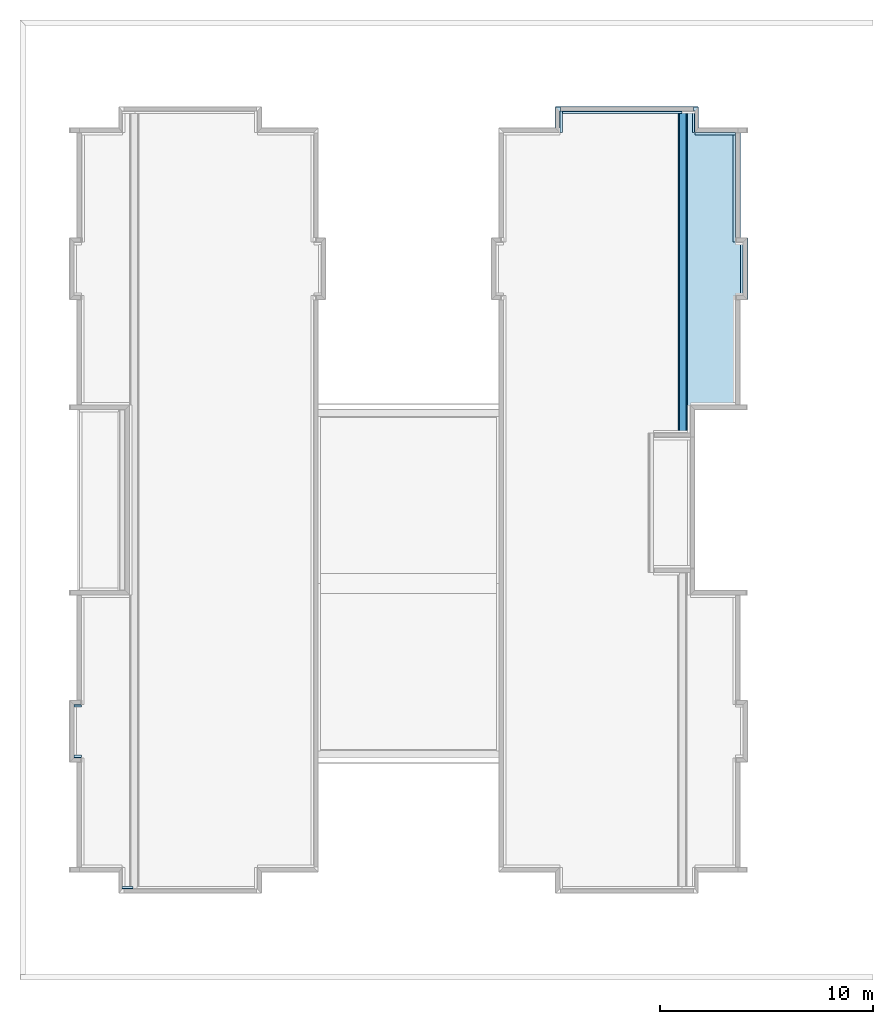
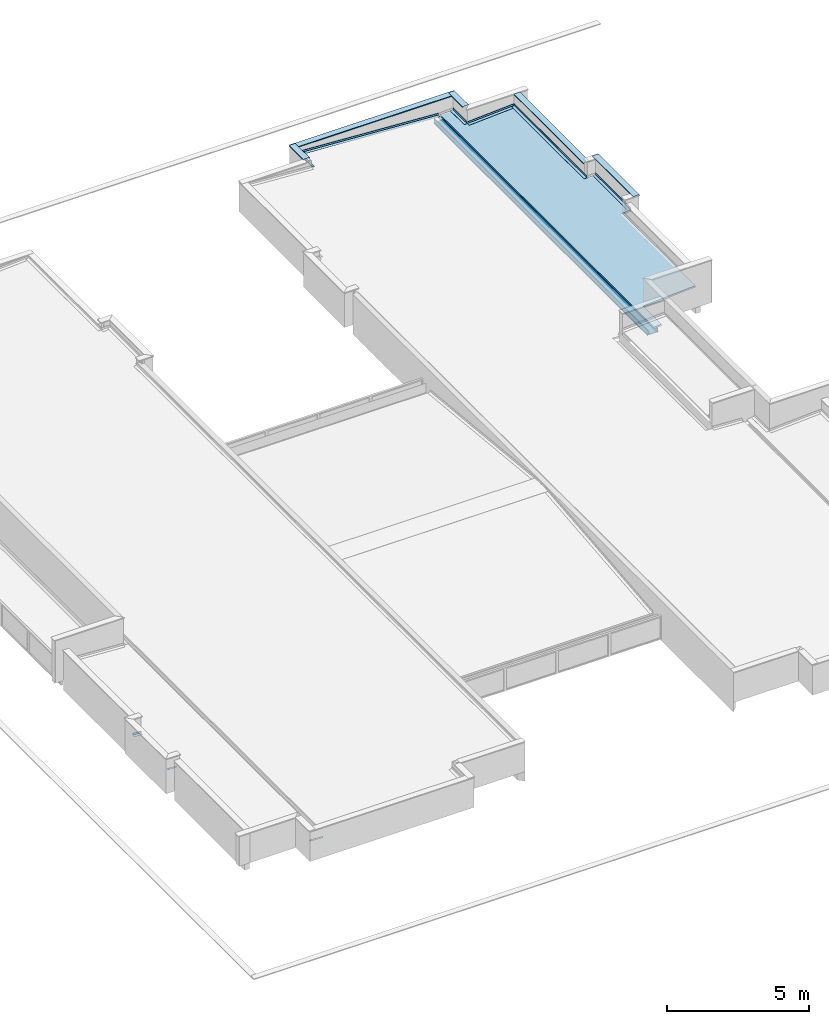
# One storey, part 14 of 25: 16 roofs.
"""IFC4 building model written with IfcOpenShell, lengths in metres."""

import ifcopenshell
import ifcopenshell.guid

model = None  # the IFC model being written
_history = None  # IfcOwnerHistory: only IFC2X3 demands one
_inside = {}  # id of a spatial element -> (the spatial element, [elements in it])
_under = {}  # id of a project, library or spatial element -> (it, [spatial elements below it])
_declared = {}  # id of a project -> (the project, [libraries it declares])
_typed = {}  # id of a type object -> (the type object, [elements of that type])
_made_of = {}  # id of a material, layer set ... -> (it, [elements and type objects made of it])


def new_model(schema):
    """Start an empty IFC model of exactly this schema.

    Asked for "IFC4X3", IfcOpenShell would pick the latest addendum, in which some entities
    have other attributes; the version numbers below select the first issue.
    IFC2X3 requires an IfcOwnerHistory on every rooted entity: one is made here for all.
    """
    global model, _history
    if schema == "IFC4X3":
        model = ifcopenshell.file(schema_version=(4, 3, 0, 0))
    else:
        model = ifcopenshell.file(schema=schema)
    _inside.clear()
    _under.clear()
    _declared.clear()
    _typed.clear()
    _made_of.clear()
    _history = None
    if model.schema == "IFC2X3":
        org = make("IfcOrganization", Name="unknown")
        user = make(
            "IfcPersonAndOrganization",
            ThePerson=make("IfcPerson", FamilyName="unknown"),
            TheOrganization=org,
        )
        app = make(
            "IfcApplication",
            ApplicationDeveloper=org,
            Version="unknown",
            ApplicationFullName="unknown",
            ApplicationIdentifier="unknown",
        )
        _history = make(
            "IfcOwnerHistory",
            OwningUser=user,
            OwningApplication=app,
            ChangeAction="ADDED",
            CreationDate=0,
        )
    return model


def make(cls, **values):
    """One entity of the class cls with the attributes given. An attribute that is None is left unset."""
    return model.create_entity(
        cls, **{name: value for name, value in values.items() if value is not None}
    )


def entity(cls, *values):
    """Any entity or typed value of the class cls, its attributes in the order of the schema. None: left unset."""
    e = model.create_entity(cls)
    for i, value in enumerate(values):
        if value is not None:
            e[i] = value
    return e


def rooted(cls, **values):
    """An entity with a GlobalId (a new one), such as an element, a storey or a relation."""
    return make(cls, GlobalId=ifcopenshell.guid.new(), OwnerHistory=_history, **values)


def si_unit(unit_type, name, prefix=None):
    """IfcSIUnit, for example si_unit("LENGTHUNIT", "METRE", prefix="MILLI")."""
    return make("IfcSIUnit", UnitType=unit_type, Prefix=prefix, Name=name)


def converted_unit(unit_type, name, factor, base, dimensions=None, offset=None):
    """IfcConversionBasedUnit, such as the inch: factor (a typed value) times the base unit."""
    return make(
        "IfcConversionBasedUnit"
        if offset is None
        else "IfcConversionBasedUnitWithOffset",
        ConversionOffset=offset,
        Dimensions=None
        if dimensions is None
        else entity("IfcDimensionalExponents", *dimensions),
        UnitType=unit_type,
        Name=name,
        ConversionFactor=make(
            "IfcMeasureWithUnit", ValueComponent=factor, UnitComponent=base
        ),
    )


def derived_unit(unit_type, elements):
    """IfcDerivedUnit: a product of units, each with its exponent."""
    return make(
        "IfcDerivedUnit",
        Elements=[
            make("IfcDerivedUnitElement", Unit=unit, Exponent=power)
            for unit, power in elements
        ],
        UnitType=unit_type,
    )


def assignment(units):
    """IfcUnitAssignment: the units of a project."""
    return None if units is None else make("IfcUnitAssignment", Units=units)


def point(xyz):
    """IfcCartesianPoint."""
    return None if xyz is None else make("IfcCartesianPoint", Coordinates=xyz)


def direction(xyz):
    """IfcDirection."""
    return None if xyz is None else make("IfcDirection", DirectionRatios=xyz)


def frame(location, z_axis=None, x_axis=None):
    """IfcAxis2Placement3D, a coordinate frame: its origin and axes. An axis left out is left unset."""
    return make(
        "IfcAxis2Placement3D",
        Location=point(location),
        Axis=direction(z_axis),
        RefDirection=direction(x_axis),
    )


def origin_with_axes():
    """The frame at (0, 0, 0) with the z axis (0, 0, 1) and the x axis (1, 0, 0) written out."""
    return frame((0.0, 0.0, 0.0), z_axis=(0.0, 0.0, 1.0), x_axis=(1.0, 0.0, 0.0))


def place(relative_to, where):
    """IfcLocalPlacement: puts the frame where relative to a parent placement (None: the world)."""
    return make(
        "IfcLocalPlacement", PlacementRelTo=relative_to, RelativePlacement=where
    )


def context(
    kind, dimensions, precision=None, world=None, true_north=None, identifier=None
):
    """IfcGeometricRepresentationContext, for example the 3D "Model" context."""
    return make(
        "IfcGeometricRepresentationContext",
        ContextIdentifier=identifier,
        ContextType=kind,
        CoordinateSpaceDimension=dimensions,
        Precision=precision,
        WorldCoordinateSystem=world,
        TrueNorth=true_north,
    )


def subcontext(parent, identifier, kind, view, scale=None):
    """IfcGeometricRepresentationSubContext, for example "Body" below "Model"."""
    return make(
        "IfcGeometricRepresentationSubContext",
        ContextIdentifier=identifier,
        ContextType=kind,
        ParentContext=parent,
        TargetScale=scale,
        TargetView=view,
    )


def project(units=None, contexts=None):
    """IfcProject with its units and contexts."""
    return rooted(
        "IfcProject",
        Name="project",
        RepresentationContexts=contexts,
        UnitsInContext=assignment(units),
    )


def spatial(cls, under=None, at=None, **own):
    """A site, building, storey or space (cls), placed at a placement, below another one or the project."""
    s = rooted(cls, ObjectPlacement=at, **own)
    if under is not None:
        _under.setdefault(under.id(), (under, []))[1].append(s)
    return s


def point_list(points):
    """IfcCartesianPointList2D or 3D."""
    cls = (
        "IfcCartesianPointList2D" if len(points[0]) == 2 else "IfcCartesianPointList3D"
    )
    return make(cls, CoordList=points)


def line(*indices):
    """IfcLineIndex: a straight run through numbered points of an indexed curve."""
    return model.create_entity("IfcLineIndex", indices)


def arc(*indices):
    """IfcArcIndex: an arc through three numbered points of an indexed curve."""
    return model.create_entity("IfcArcIndex", indices)


def indexed_curve(points, segments=None, self_intersect=None):
    """IfcIndexedPolyCurve: lines and arcs through numbered points (the first is 1)."""
    return make(
        "IfcIndexedPolyCurve",
        Points=point_list(points),
        Segments=segments,
        SelfIntersect=self_intersect,
    )


def outline(outer, holes=None, kind="AREA"):
    """IfcArbitraryClosedProfileDef: a profile drawn as a closed curve; with holes, ...WithVoids."""
    if holes is None:
        return make("IfcArbitraryClosedProfileDef", ProfileType=kind, OuterCurve=outer)
    return make(
        "IfcArbitraryProfileDefWithVoids",
        ProfileType=kind,
        OuterCurve=outer,
        InnerCurves=holes,
    )


def composite_profile(profiles, kind="AREA"):
    """IfcCompositeProfileDef: several profiles as one."""
    return make("IfcCompositeProfileDef", ProfileType=kind, Profiles=profiles)


def extrude(swept, where, along, depth):
    """IfcExtrudedAreaSolid: the profile swept, set in the frame where, extruded along a direction by depth."""
    return make(
        "IfcExtrudedAreaSolid",
        SweptArea=swept,
        Position=where,
        ExtrudedDirection=direction(along),
        Depth=depth,
    )


def clip(a, b, op="DIFFERENCE"):
    """IfcBooleanClippingResult: the solid a cut by the half space b."""
    return make(
        "IfcBooleanClippingResult", Operator=op, FirstOperand=a, SecondOperand=b
    )


def halfspace(plane, agree):
    """IfcHalfSpaceSolid: all space on one side of the plane z = 0 of the frame plane."""
    return make(
        "IfcHalfSpaceSolid",
        BaseSurface=make("IfcPlane", Position=plane),
        AgreementFlag=agree,
    )


def shape(context_of_items, identifier, shape_type, items):
    """IfcShapeRepresentation: the items that make up one representation, for example the "Body"."""
    return make(
        "IfcShapeRepresentation",
        ContextOfItems=context_of_items,
        RepresentationIdentifier=identifier,
        RepresentationType=shape_type,
        Items=items,
    )


def material(Name=None, Category=None):
    """IfcMaterial."""
    return make("IfcMaterial", Name=Name, Category=Category)


def material_profile(
    of_material, cross_section, Name=None, Category=None, Priority=None
):
    """IfcMaterialProfile: a cross section and its material."""
    return make(
        "IfcMaterialProfile",
        Name=Name,
        Material=of_material,
        Profile=cross_section,
        Priority=Priority,
        Category=Category,
    )


def profile_set(profiles, Name=None, composite=None):
    """IfcMaterialProfileSet."""
    return make(
        "IfcMaterialProfileSet",
        Name=Name,
        MaterialProfiles=profiles,
        CompositeProfile=composite,
    )


def made_of(thing, what):
    """Note that an element or type object is made of a material, layer set ...; save() writes the relation."""
    if what is not None:
        _made_of.setdefault(what.id(), (what, []))[1].append(thing)
    return thing


def type_object(cls, material=None, **own):
    """A type object (cls), such as IfcWallType, which elements share."""
    return made_of(rooted(cls, **own), material)


def element(
    cls,
    number,
    at=None,
    inside=None,
    cuts=None,
    type_object=None,
    material=None,
    context=None,
    identifier="Body",
    shape_type=None,
    held_by="IfcProductDefinitionShape",
    body=None,
    shapes=None,
    **own,
):
    """One element of the class cls, such as IfcWall. Its Tag is "e" and its number.

    at: its placement. inside: the storey or other place that contains it. cuts: it is an
    opening in that element (IfcRelVoidsElement). A single representation is given by context,
    identifier, shape_type and body (its items); several are given by shapes. held_by: the class
    of the entity that holds the representations. save() writes the other relations.
    """
    e = rooted(cls, Tag="e%d" % number, ObjectPlacement=at, **own)
    if body is not None:
        shapes = [shape(context, identifier, shape_type, body)]
    if shapes is not None:
        e.Representation = make(held_by, Representations=shapes)
    if inside is not None:
        _inside.setdefault(inside.id(), (inside, []))[1].append(e)
    if cuts is not None:
        rooted(
            "IfcRelVoidsElement", RelatingBuildingElement=cuts, RelatedOpeningElement=e
        )
    if type_object is not None:
        _typed.setdefault(type_object.id(), (type_object, []))[1].append(e)
    return made_of(e, material)


def aggregate(whole, parts):
    """IfcRelAggregates: a whole, such as a stair, and the parts it consists of."""
    return rooted("IfcRelAggregates", RelatingObject=whole, RelatedObjects=parts)


def save(model, path):
    """Write the relations noted so far, then the file.

    IfcRelAggregates (storeys below a building ...), IfcRelContainedInSpatialStructure (elements
    in a storey), IfcRelDefinesByType, IfcRelAssociatesMaterial and IfcRelDeclares: one each for
    every whole, place, type object, material and project.
    """
    for whole, parts in _under.values():
        aggregate(whole, parts)
    for where, things in _inside.values():
        rooted(
            "IfcRelContainedInSpatialStructure",
            RelatedElements=things,
            RelatingStructure=where,
        )
    for kind, things in _typed.values():
        rooted("IfcRelDefinesByType", RelatedObjects=things, RelatingType=kind)
    for what, things in _made_of.values():
        rooted("IfcRelAssociatesMaterial", RelatedObjects=things, RelatingMaterial=what)
    for by, libraries in _declared.values():
        rooted("IfcRelDeclares", RelatingContext=by, RelatedDefinitions=libraries)
    model.write(path)


model = new_model("IFC4")

# Units and contexts
model_context = context("Model", 3, precision=1e-05, world=origin_with_axes(), true_north=direction((0.0, 1.0)))
body_context = subcontext(model_context, "Body", "Model", "MODEL_VIEW")
ifc_project = project(units=[si_unit("LENGTHUNIT", "METRE"), si_unit("AREAUNIT", "SQUARE_METRE"), si_unit("VOLUMEUNIT", "CUBIC_METRE"), converted_unit("PLANEANGLEUNIT", "DEGREE", entity("IfcPlaneAngleMeasure", 0.0174532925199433), si_unit("PLANEANGLEUNIT", "RADIAN"), dimensions=[0, 0, 0, 0, 0, 0, 0]), converted_unit("TIMEUNIT", "Year", entity("IfcTimeMeasure", 31557600.0), si_unit("TIMEUNIT", "SECOND"), dimensions=[0, 0, 1, 0, 0, 0, 0]), si_unit("MASSUNIT", "GRAM", prefix="KILO"), si_unit("THERMODYNAMICTEMPERATUREUNIT", "DEGREE_CELSIUS"), si_unit("LUMINOUSINTENSITYUNIT", "LUMEN"), si_unit("ENERGYUNIT", "JOULE", prefix="MEGA"), derived_unit("THERMALCONDUCTANCEUNIT", [(si_unit("POWERUNIT", "WATT"), 1), (si_unit("LENGTHUNIT", "METRE"), -1), (si_unit("THERMODYNAMICTEMPERATUREUNIT", "KELVIN"), -1)]), derived_unit("SPECIFICHEATCAPACITYUNIT", [(si_unit("ENERGYUNIT", "JOULE"), 1), (si_unit("MASSUNIT", "GRAM", prefix="KILO"), -1), (si_unit("THERMODYNAMICTEMPERATUREUNIT", "KELVIN"), -1)]), derived_unit("MASSDENSITYUNIT", [(si_unit("MASSUNIT", "GRAM", prefix="KILO"), 1), (si_unit("VOLUMEUNIT", "CUBIC_METRE"), -1)])], contexts=[model_context])

# Site, building, storey
site_placement = place(None, origin_with_axes())
site = spatial("IfcSite", under=ifc_project, at=site_placement, Name="PADRÃO", CompositionType="ELEMENT")
building_placement = place(site_placement, origin_with_axes())
building = spatial("IfcBuilding", under=site, at=building_placement, Name="CRECHE PRÉ-ESCOLA TIPO 2", CompositionType="ELEMENT")
storey_placement = place(building_placement, frame((0.0, 0.0, 3.26), z_axis=(0.0, 0.0, 1.0), x_axis=(1.0, 0.0, 0.0)))
storey = spatial("IfcBuildingStorey", under=building, at=storey_placement, Name="COBERTURA", CompositionType="ELEMENT", Elevation=3.26)

# Roofs
ifc_material_1 = material(Name="TELHA METÁLICA TERMOACÚSTICA")
roof_type_1 = type_object("IfcRoofType", Name="TELHA METÁLICA TERMOACÚSTICA 70", PredefinedType="NOTDEFINED")
roof_1_placement = place(storey_placement, frame((-6.4400175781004, 39.7751358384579, 0.730885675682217), z_axis=(0.0, 0.0, 1.0), x_axis=(0.0, -1.0, 0.0)))
element("IfcRoof", 1, at=roof_1_placement, inside=storey, type_object=roof_type_1, material=ifc_material_1, Name="Cobert.-001", PredefinedType="NOTDEFINED", context=body_context, shape_type="SweptSolid", body=[
    extrude(outline(indexed_curve([(12.8249995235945, 0.004235), (7.67506697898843, 0.004235), (7.67506697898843, 0.354799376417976), (5.17506554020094, 0.354799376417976), (5.17506554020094, 0.004235), (0.024999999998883, 0.004235), (0.024999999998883, -1.90933695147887), (-0.975000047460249, -1.90933695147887), (-0.975000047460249, -2.44028208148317), (14.1249999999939, -2.44028208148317), (14.1249999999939, -2.12974501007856), (12.8249995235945, -2.12974501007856)], segments=[line(1, 2, 3, 4, 5, 6, 7, 8, 9, 10, 11, 12, 1)])), frame((0.0, 0.0, 0.0), z_axis=(0.0, -0.0603895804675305, 0.998174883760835), x_axis=(1.0, 0.0, 0.0)), (0.0, 0.0, 1.0), 0.07),
])
ifc_material_2 = material(Name="RUFO EM CHAPA DE AÇO GALVANIZADO")
ifc_material_profile_1 = material_profile(ifc_material_2, outline(indexed_curve([(-0.123242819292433, 0.0), (-0.123136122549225, -0.000994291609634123), (-0.01, 0.0111462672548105), (-0.01, 0.0811462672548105), (0.000794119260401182, 0.0919771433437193), (8.58116060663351e-05, 0.0926830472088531), (-0.011, 0.0815594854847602), (-0.011, 0.0120446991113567), (-0.123136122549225, 1.14495535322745e-05)], segments=[line(1, 2, 3, 4, 5, 6, 7, 8, 9, 1)])), Name="RUFO EM CHAPA DE AÇO GALVANIZADO")
ifc_profile_set_1 = profile_set([ifc_material_profile_1], Name="FNDE-Rufo")
roof_type_2 = type_object("IfcRoofType", Name="FNDE-Rufo 124 x 94", PredefinedType="NOTDEFINED")
roof_2_placement = place(storey_placement, frame((-6.0900072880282, 32.1011857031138, 0.820777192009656), z_axis=(0.0, 0.0, 1.0), x_axis=(1.0, 0.0, 0.0)))
element("IfcRoof", 2, at=roof_2_placement, inside=storey, type_object=roof_type_2, material=ifc_profile_set_1, Name="V01", PredefinedType="NOTDEFINED", context=body_context, shape_type="SweptSolid", body=[
    extrude(outline(indexed_curve([(-0.123242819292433, 0.0), (-0.123136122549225, -0.000994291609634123), (-0.01, 0.0111462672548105), (-0.01, 0.0811462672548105), (0.000794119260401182, 0.0919771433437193), (8.58116060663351e-05, 0.0926830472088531), (-0.011, 0.0815594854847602), (-0.011, 0.0120446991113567), (-0.123136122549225, 1.14495535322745e-05)], segments=[line(1, 2, 3, 4, 5, 6, 7, 8, 9, 1)])), frame((0.0, 2.50000143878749, 0.0), z_axis=(0.0, -1.0, 0.0), x_axis=(1.0, 0.0, 0.0)), (0.0, 0.0, 1.0), 2.50000143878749),
])
roof_3_placement = place(storey_placement, frame((-6.44010225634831, 34.600090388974, 0.800958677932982), z_axis=(0.0, 0.0, 1.0), x_axis=(1.0, 0.0, 0.0)))
element("IfcRoof", 3, at=roof_3_placement, inside=storey, type_object=roof_type_2, material=ifc_profile_set_1, Name="V01", PredefinedType="NOTDEFINED", context=body_context, shape_type="SweptSolid", body=[
    extrude(outline(indexed_curve([(-0.123242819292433, 0.0), (-0.123136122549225, -0.000994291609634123), (-0.01, 0.0111462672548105), (-0.01, 0.0811462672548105), (0.000794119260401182, 0.0919771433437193), (8.58116060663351e-05, 0.0926830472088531), (-0.011, 0.0815594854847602), (-0.011, 0.0120446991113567), (-0.123136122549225, 1.14495535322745e-05)], segments=[line(1, 2, 3, 4, 5, 6, 7, 8, 9, 1)])), frame((0.0, 5.15006554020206, 0.0), z_axis=(0.0, -1.0, 0.0), x_axis=(1.0, 0.0, 0.0)), (0.0, 0.0, 1.0), 5.15006554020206),
])
roof_4_placement = place(storey_placement, frame((-8.95813471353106, 40.7501559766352, 0.661243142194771), z_axis=(0.0, 0.0, 1.0), x_axis=(-1.30708102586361e-06, 0.999999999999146, 0.0)))
element("IfcRoof", 4, at=roof_4_placement, inside=storey, type_object=roof_type_2, material=ifc_profile_set_1, Name="V01", PredefinedType="NOTDEFINED", context=body_context, shape_type="Clipping", body=[
    clip(clip(extrude(outline(indexed_curve([(-0.123242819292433, 0.0), (-0.123136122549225, -0.000994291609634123), (-0.01, 0.0111462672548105), (-0.01, 0.0811462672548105), (0.000794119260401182, 0.0919771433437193), (8.58116060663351e-05, 0.0926830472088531), (-0.011, 0.0815594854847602), (-0.011, 0.0120446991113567), (-0.123136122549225, 1.14495535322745e-05)], segments=[line(1, 2, 3, 4, 5, 6, 7, 8, 9, 1)])), frame((0.0, 5.74269318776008, 0.353751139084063), z_axis=(0.0, -0.998108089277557, -0.0614836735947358), x_axis=(1.0, 0.0, 0.0)), (0.0, 0.0, 1.0), 5.76438402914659), halfspace(frame((0.0, 0.0, 0.0), z_axis=(0.0, 1.0, 0.0), x_axis=(0.0, 0.0, 1.0)), True)), halfspace(frame((0.0, 5.7319080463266, 0.0), z_axis=(0.0, -1.0, 0.0), x_axis=(0.0, 0.0, -1.0)), True)),
])
roof_5_placement = place(storey_placement, frame((-14.6900427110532, 40.750148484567, 1.01432991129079), z_axis=(0.0, 0.0, 1.0), x_axis=(-0.999999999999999, -4.7876078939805e-08, 0.0)))
element("IfcRoof", 5, at=roof_5_placement, inside=storey, type_object=roof_type_2, material=ifc_profile_set_1, Name="V01", PredefinedType="NOTDEFINED", context=body_context, shape_type="SweptSolid", body=[
    extrude(outline(indexed_curve([(-0.123242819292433, 0.0), (-0.123136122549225, -0.000994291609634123), (-0.01, 0.0111462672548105), (-0.01, 0.0811462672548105), (0.000794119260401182, 0.0919771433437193), (8.58116060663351e-05, 0.0926830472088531), (-0.011, 0.0815594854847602), (-0.011, 0.0120446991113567), (-0.123136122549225, 1.14495535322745e-05)], segments=[line(1, 2, 3, 4, 5, 6, 7, 8, 9, 1)])), frame((0.0, 1.00005816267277, 0.0), z_axis=(0.0, -1.0, 0.0), x_axis=(1.0, 0.0, 0.0)), (0.0, 0.0, 1.0), 1.00005816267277),
])
roof_6_placement = place(storey_placement, frame((-6.44010225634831, 39.7501559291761, 0.800958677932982), z_axis=(0.0, 0.0, 1.0), x_axis=(0.0, 1.0, 0.0)))
element("IfcRoof", 6, at=roof_6_placement, inside=storey, type_object=roof_type_2, material=ifc_profile_set_1, Name="V01", PredefinedType="NOTDEFINED", context=body_context, shape_type="Clipping", body=[
    clip(clip(extrude(outline(indexed_curve([(-0.123242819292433, 0.0), (-0.123136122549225, -0.000994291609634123), (-0.01, 0.0111462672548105), (-0.01, 0.0811462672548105), (0.000794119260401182, 0.0919771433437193), (8.58116060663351e-05, 0.0926830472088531), (-0.011, 0.0815594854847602), (-0.011, 0.0120446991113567), (-0.123136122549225, 1.14495535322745e-05)], segments=[line(1, 2, 3, 4, 5, 6, 7, 8, 9, 1)])), frame((0.0, 1.92097128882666, -0.115258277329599), z_axis=(0.0, -0.998204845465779, 0.0598922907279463), x_axis=(1.0, 0.0, 0.0)), (0.0, 0.0, 1.0), 1.93495081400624), halfspace(frame((0.0, 0.0, 0.0), z_axis=(0.0, 1.0, 0.0), x_axis=(0.0, 0.0, 1.0)), True)), halfspace(frame((0.0, 1.91046529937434, 0.0), z_axis=(0.0, -1.0, 0.0), x_axis=(0.0, 0.0, -1.0)), True)),
])
roof_7_placement = place(storey_placement, frame((-8.35056755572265, 39.7501559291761, 0.685453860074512), z_axis=(0.0, 0.0, 1.0), x_axis=(1.0, 0.0, 0.0)))
element("IfcRoof", 7, at=roof_7_placement, inside=storey, type_object=roof_type_2, material=ifc_profile_set_1, Name="V01", PredefinedType="NOTDEFINED", context=body_context, shape_type="SweptSolid", body=[
    extrude(outline(indexed_curve([(-0.123242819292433, 0.0), (-0.123136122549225, -0.000994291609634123), (-0.01, 0.0111462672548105), (-0.01, 0.0811462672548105), (0.000794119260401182, 0.0919771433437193), (8.58116060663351e-05, 0.0926830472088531), (-0.011, 0.0815594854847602), (-0.011, 0.0120446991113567), (-0.123136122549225, 1.14495535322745e-05)], segments=[line(1, 2, 3, 4, 5, 6, 7, 8, 9, 1)])), frame((0.0, 1.00000004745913, 0.0), z_axis=(0.0, -1.0, 0.0), x_axis=(1.0, 0.0, 0.0)), (0.0, 0.0, 1.0), 1.00000004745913),
])
roof_8_placement = place(storey_placement, frame((-34.7265283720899, 4.25015275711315, 0.656572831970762), z_axis=(0.0, 0.0, 1.0), x_axis=(-4.14629476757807e-05, 0.999999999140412, 0.0)))
element("IfcRoof", 8, at=roof_8_placement, inside=storey, type_object=roof_type_2, material=ifc_profile_set_1, Name="V01", PredefinedType="NOTDEFINED", context=body_context, shape_type="Clipping", body=[
    clip(clip(extrude(outline(indexed_curve([(-0.123242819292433, 0.0), (-0.123136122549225, -0.000994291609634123), (-0.01, 0.0111462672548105), (-0.01, 0.0811462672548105), (0.000794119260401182, 0.0919771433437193), (8.58116060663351e-05, 0.0926830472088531), (-0.011, 0.0815594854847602), (-0.011, 0.0120446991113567), (-0.123136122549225, 1.14495535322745e-05)], segments=[line(1, 2, 3, 4, 5, 6, 7, 8, 9, 1)])), frame((0.0, 0.513028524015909, 0.0277129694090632), z_axis=(0.0, 0.998544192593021, 0.0539397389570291), x_axis=(-1.0, 0.0, 0.0)), (0.0, 0.0, -1.0), 0.523252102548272), halfspace(frame((0.0, 0.0, 0.0), z_axis=(0.0, 1.0, 0.0), x_axis=(0.0, 0.0, 1.0)), True)), halfspace(frame((0.0, 0.503566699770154, 0.0), z_axis=(0.0, -1.0, 0.0), x_axis=(0.0, 0.0, -1.0)), True)),
])
roof_9_placement = place(storey_placement, frame((-37.4909428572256, 12.9000010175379, 0.820899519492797), z_axis=(0.0, 0.0, 1.0), x_axis=(0.0, -1.0, 0.0)))
element("IfcRoof", 9, at=roof_9_placement, inside=storey, type_object=roof_type_2, material=ifc_profile_set_1, Name="V01", PredefinedType="NOTDEFINED", context=body_context, shape_type="Clipping", body=[
    clip(clip(extrude(outline(indexed_curve([(-0.123242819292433, 0.0), (-0.123136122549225, -0.000994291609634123), (-0.01, 0.0111462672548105), (-0.01, 0.0811462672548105), (0.000794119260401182, 0.0919771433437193), (8.58116060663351e-05, 0.0926830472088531), (-0.011, 0.0815594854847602), (-0.011, 0.0120446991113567), (-0.123136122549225, 1.14495535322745e-05)], segments=[line(1, 2, 3, 4, 5, 6, 7, 8, 9, 1)])), frame((0.0, 0.360760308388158, -0.0216405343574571), z_axis=(0.0, 0.998205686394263, -0.0598782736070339), x_axis=(-1.0, 0.0, 0.0)), (0.0, 0.0, -1.0), 0.371931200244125), halfspace(frame((0.0, 0.0, 0.0), z_axis=(0.0, 1.0, 0.0), x_axis=(0.0, 0.0, 1.0)), True)), halfspace(frame((0.0, 0.350256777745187, 0.0), z_axis=(0.0, -1.0, 0.0), x_axis=(0.0, 0.0, -1.0)), True)),
])
roof_10_placement = place(storey_placement, frame((-37.1406285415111, 10.399988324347, 0.799880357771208), z_axis=(0.0, 0.0, 1.0), x_axis=(7.23972153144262e-05, 0.999999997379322, 0.0)))
element("IfcRoof", 10, at=roof_10_placement, inside=storey, type_object=roof_type_2, material=ifc_profile_set_1, Name="V01", PredefinedType="NOTDEFINED", context=body_context, shape_type="Clipping", body=[
    clip(clip(extrude(outline(indexed_curve([(-0.123242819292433, 0.0), (-0.123136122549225, -0.000994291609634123), (-0.01, 0.0111462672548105), (-0.01, 0.0811462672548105), (0.000794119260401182, 0.0919771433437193), (8.58116060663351e-05, 0.0926830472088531), (-0.011, 0.0815594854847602), (-0.011, 0.0120446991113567), (-0.123136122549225, 1.14495535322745e-05)], segments=[line(1, 2, 3, 4, 5, 6, 7, 8, 9, 1)])), frame((0.0, 0.360936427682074, 0.0216491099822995), z_axis=(0.0, 0.99820601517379, 0.0598727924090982), x_axis=(-1.0, 0.0, 0.0)), (0.0, 0.0, -1.0), 0.372106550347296), halfspace(frame((0.0, 0.0, 0.0), z_axis=(0.0, 1.0, 0.0), x_axis=(0.0, 0.0, 1.0)), True)), halfspace(frame((0.0, 0.350433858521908, 0.0), z_axis=(0.0, -1.0, 0.0), x_axis=(0.0, 0.0, -1.0)), True)),
])
ifc_material_3 = material(Name="PINGADEIRA EM CHAPA DE AÇO GALVANIZADO")
ifc_material_profile_2 = material_profile(ifc_material_3, outline(indexed_curve([(0.00496259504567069, -0.0184313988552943), (0.0250000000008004, -0.03), (0.0250000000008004, 0.01), (-0.225020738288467, 0.01), (-0.22503740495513, -0.03), (-0.205, -0.0184313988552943), (-0.2055, -0.0175653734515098), (-0.224036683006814, -0.0282675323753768), (-0.224021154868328, 0.009), (0.0240000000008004, 0.009), (0.0240000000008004, -0.0282679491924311), (0.00546259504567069, -0.0175653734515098)], segments=[line(1, 2, 3, 4, 5, 6, 7, 8, 9, 10, 11, 12, 1)])), Name="PINGADEIRA EM CHAPA DE AÇO GALVANIZADO")
ifc_profile_set_2 = profile_set([ifc_material_profile_2], Name="FNDE-Pingadeira em chapa de aço galvanizado")
roof_type_3 = type_object("IfcRoofType", Name="FNDE-Pingadeira em chapa de aço galvanizado 250 x 40", PredefinedType="NOTDEFINED")
roof_11_placement = place(storey_placement, frame((-8.20056435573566, 39.950155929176, 1.31), z_axis=(0.0, 0.0, 1.0), x_axis=(1.0, 0.0, 0.0)))
element("IfcRoof", 11, at=roof_11_placement, inside=storey, type_object=roof_type_3, material=ifc_profile_set_2, Name="V01", PredefinedType="NOTDEFINED", context=body_context, shape_type="SweptSolid", body=[
    extrude(outline(indexed_curve([(0.00496259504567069, -0.0184313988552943), (0.0250000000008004, -0.03), (0.0250000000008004, 0.01), (-0.225020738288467, 0.01), (-0.22503740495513, -0.03), (-0.205, -0.0184313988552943), (-0.2055, -0.0175653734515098), (-0.224036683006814, -0.0282675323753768), (-0.224021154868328, 0.009), (0.0240000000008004, 0.009), (0.0240000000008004, -0.0282679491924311), (0.00546259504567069, -0.0175653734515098)], segments=[line(1, 2, 3, 4, 5, 6, 7, 8, 9, 10, 11, 12, 1)])), frame((0.0, 1.00000010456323, 0.0), z_axis=(0.0, -1.0, 0.0), x_axis=(1.0, 0.0, 0.0)), (0.0, 0.0, 1.0), 1.00000010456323),
])
roof_12_placement = place(storey_placement, frame((-8.20056435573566, 40.9501560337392, 1.31), z_axis=(0.0, 0.0, 1.0), x_axis=(-1.16182311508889e-06, 0.999999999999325, 0.0)))
element("IfcRoof", 12, at=roof_12_placement, inside=storey, type_object=roof_type_3, material=ifc_profile_set_2, Name="V01", PredefinedType="NOTDEFINED", context=body_context, shape_type="SweptSolid", body=[
    extrude(outline(indexed_curve([(0.00496259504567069, -0.0184313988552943), (0.0250000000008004, -0.03), (0.0250000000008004, 0.01), (-0.225020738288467, 0.01), (-0.22503740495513, -0.03), (-0.205, -0.0184313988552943), (-0.2055, -0.0175653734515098), (-0.224036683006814, -0.0282675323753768), (-0.224021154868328, 0.009), (0.0240000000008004, 0.009), (0.0240000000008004, -0.0282679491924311), (0.00546259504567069, -0.0175653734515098)], segments=[line(1, 2, 3, 4, 5, 6, 7, 8, 9, 10, 11, 12, 1)])), frame((0.0, 6.6899751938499, 0.0), z_axis=(0.0, -1.0, 0.0), x_axis=(1.0, 0.0, 0.0)), (0.0, 0.0, 1.0), 6.6899751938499),
])
roof_13_placement = place(storey_placement, frame((-14.890539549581, 40.9501482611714, 1.31), z_axis=(0.0, 0.0, 1.0), x_axis=(-0.999999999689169, 2.49331613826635e-05, 0.0)))
element("IfcRoof", 13, at=roof_13_placement, inside=storey, type_object=roof_type_3, material=ifc_profile_set_2, Name="V01", PredefinedType="NOTDEFINED", context=body_context, shape_type="SweptSolid", body=[
    extrude(outline(indexed_curve([(0.00496259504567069, -0.0184313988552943), (0.0250000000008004, -0.03), (0.0250000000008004, 0.01), (-0.225020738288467, 0.01), (-0.22503740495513, -0.03), (-0.205, -0.0184313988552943), (-0.2055, -0.0175653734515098), (-0.224036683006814, -0.0282675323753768), (-0.224021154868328, 0.009), (0.0240000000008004, 0.009), (0.0240000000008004, -0.0282679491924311), (0.00546259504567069, -0.0175653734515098)], segments=[line(1, 2, 3, 4, 5, 6, 7, 8, 9, 10, 11, 12, 1)])), frame((0.0, 1.00005793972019, 0.0), z_axis=(0.0, -1.0, 0.0), x_axis=(1.0, 0.0, 0.0)), (0.0, 0.0, 1.0), 1.00005793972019),
])
roof_14_placement = place(storey_placement, frame((-6.24081070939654, 39.7251310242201, 1.31), z_axis=(0.0, 0.0, 1.0), x_axis=(-1.0, 0.0, 0.0)))
element("IfcRoof", 14, at=roof_14_placement, inside=storey, type_object=roof_type_3, material=ifc_profile_set_2, Name="V01", PredefinedType="NOTDEFINED", context=body_context, shape_type="SweptSolid", body=[
    extrude(outline(indexed_curve([(0.00496259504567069, -0.0184313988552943), (0.0250000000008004, -0.03), (0.0250000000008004, 0.01), (-0.225020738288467, 0.01), (-0.22503740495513, -0.03), (-0.205, -0.0184313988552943), (-0.2055, -0.0175653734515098), (-0.224036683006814, -0.0282675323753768), (-0.224021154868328, 0.009), (0.0240000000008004, 0.009), (0.0240000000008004, -0.0282679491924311), (0.00546259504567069, -0.0175653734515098)], segments=[line(1, 2, 3, 4, 5, 6, 7, 8, 9, 10, 11, 12, 1)])), frame((0.0, 4.92556918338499, 0.0), z_axis=(0.0, 1.0, 0.0), x_axis=(-1.0, 0.0, 0.0)), (0.0, 0.0, -1.0), 4.92556918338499),
])
roof_15_placement = place(storey_placement, frame((-5.89086795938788, 34.7995404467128, 1.51), z_axis=(0.0, 0.0, 1.0), x_axis=(-0.99999999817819, 6.03624105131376e-05, 0.0)))
element("IfcRoof", 15, at=roof_15_placement, inside=storey, type_object=roof_type_3, material=ifc_profile_set_2, Name="V01", PredefinedType="NOTDEFINED", context=body_context, shape_type="SweptSolid", body=[
    extrude(outline(indexed_curve([(0.00496259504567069, -0.0184313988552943), (0.0250000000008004, -0.03), (0.0250000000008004, 0.01), (-0.225020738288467, 0.01), (-0.22503740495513, -0.03), (-0.205, -0.0184313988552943), (-0.2055, -0.0175653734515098), (-0.224036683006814, -0.0282675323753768), (-0.224021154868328, 0.009), (0.0240000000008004, 0.009), (0.0240000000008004, -0.0282679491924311), (0.00546259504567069, -0.0175653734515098)], segments=[line(1, 2, 3, 4, 5, 6, 7, 8, 9, 10, 11, 12, 1)])), frame((0.0, 2.90000052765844, 0.0), z_axis=(0.0, 1.0, 0.0), x_axis=(-1.0, 0.0, 0.0)), (0.0, 0.0, -1.0), 2.90000052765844),
])
ifc_material_4 = material(Name="CALHA EM CHAPA DE AÇO GALVANIZADO")
ifc_material_profile_3 = material_profile(ifc_material_4, outline(indexed_curve([(0.201344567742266, -0.0546026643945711), (0.211344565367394, -0.0546026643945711), (0.211344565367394, -0.0254650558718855), (0.201344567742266, -0.0254649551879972)], segments=[line(1, 2, 3, 4, 1)])), Name="CALHA EM CHAPA DE AÇO GALVANIZADO 1")
ifc_material_profile_4 = material_profile(ifc_material_4, outline(indexed_curve([(0.211344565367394, 0.170194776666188), (0.201344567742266, 0.170194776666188), (0.201344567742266, -0.000467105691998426), (0.211344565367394, -0.000467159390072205)], segments=[line(1, 2, 3, 4, 1)])), Name="CALHA EM CHAPA DE AÇO GALVANIZADO 1")
ifc_material_profile_5 = material_profile(ifc_material_4, outline(indexed_curve([(-0.210177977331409, -0.0642311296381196), (-0.200177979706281, -0.0642311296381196), (-0.200177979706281, -0.0254630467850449), (-0.210177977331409, -0.0254630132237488)], segments=[line(1, 2, 3, 4, 1)])), Name="CALHA EM CHAPA DE AÇO GALVANIZADO 2")
ifc_material_profile_6 = material_profile(ifc_material_4, outline(indexed_curve([(-0.200177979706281, 0.160718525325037), (-0.210177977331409, 0.160718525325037), (-0.210177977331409, -0.00046508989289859), (-0.200177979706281, -0.000465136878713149)], segments=[line(1, 2, 3, 4, 1)])), Name="CALHA EM CHAPA DE AÇO GALVANIZADO 2")
ifc_material_profile_7 = material_profile(ifc_material_4, outline(indexed_curve([(-0.189999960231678, 0.146532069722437), (-0.189999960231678, -0.000465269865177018), (-0.187999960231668, -0.000465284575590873), (-0.187999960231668, 0.146532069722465), (-0.187707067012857, 0.147239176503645), (-0.186999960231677, 0.147532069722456), (-0.177673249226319, 0.147532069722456), (-0.177032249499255, 0.147299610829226), (-0.176689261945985, 0.146710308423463), (-0.152008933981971, -0.000465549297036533), (-0.15, -0.000465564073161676), (-0.174704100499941, 0.146960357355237), (-0.175709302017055, 0.148799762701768), (-0.177673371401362, 0.149532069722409), (-0.186999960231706, 0.149532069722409), (-0.189121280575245, 0.148653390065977)], segments=[line(1, 2, 3, 4), arc(4, 5, 6), line(6, 7), arc(7, 8, 9), line(9, 10, 11, 12), arc(12, 13, 14), line(14, 15), arc(15, 16, 1)])), Name="CALHA EM CHAPA DE AÇO GALVANIZADO 3")
ifc_material_profile_8 = material_profile(ifc_material_4, outline(indexed_curve([(-0.225177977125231, -0.000465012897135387), (-0.225177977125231, -0.0254629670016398), (-0.210177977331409, -0.0254630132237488), (-0.200177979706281, -0.0254630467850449), (-0.0475010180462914, -0.0254635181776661), (0.0475010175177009, -0.0254635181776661), (0.201344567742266, -0.0254649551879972), (0.211344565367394, -0.0254650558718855), (0.225273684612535, -0.0254651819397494), (0.225273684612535, -0.000467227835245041), (0.211344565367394, -0.000467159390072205), (0.201344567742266, -0.000467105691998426), (0.189999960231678, -0.000465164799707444), (0.187999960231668, -0.000465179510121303), (0.152008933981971, -0.000465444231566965), (0.15, -0.000465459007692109), (-0.15, -0.000465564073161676), (-0.152008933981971, -0.000465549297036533), (-0.187999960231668, -0.000465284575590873), (-0.189999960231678, -0.000465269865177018), (-0.200177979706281, -0.000465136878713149), (-0.210177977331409, -0.00046508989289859)], segments=[line(1, 2, 3, 4, 5, 6, 7, 8, 9, 10, 11, 12, 13, 14, 15, 16, 17, 18, 19, 20, 21, 22, 1)])), Name="CALHA EM CHAPA DE AÇO GALVANIZADO 4")
ifc_material_profile_9 = material_profile(ifc_material_4, outline(indexed_curve([(0.186999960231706, 0.149532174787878), (0.177673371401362, 0.149532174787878), (0.175709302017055, 0.148799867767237), (0.174704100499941, 0.146960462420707), (0.15, -0.000465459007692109), (0.152008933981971, -0.000465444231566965), (0.176689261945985, 0.146710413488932), (0.177032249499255, 0.147299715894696), (0.177673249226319, 0.147532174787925), (0.186999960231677, 0.147532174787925), (0.187707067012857, 0.147239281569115), (0.187999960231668, 0.146532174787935), (0.187999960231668, -0.000465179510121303), (0.189999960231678, -0.000465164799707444), (0.189999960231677, 0.146532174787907), (0.189121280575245, 0.148653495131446)], segments=[line(1, 2), arc(2, 3, 4), line(4, 5, 6, 7), arc(7, 8, 9), line(9, 10), arc(10, 11, 12), line(12, 13, 14, 15), arc(15, 16, 1)])), Name="CALHA EM CHAPA DE AÇO GALVANIZADO 5")
ifc_profile_set_3 = profile_set([ifc_material_profile_3, ifc_material_profile_4, ifc_material_profile_5, ifc_material_profile_6, ifc_material_profile_7, ifc_material_profile_8, ifc_material_profile_9], Name="FNDE-Calha", composite=composite_profile([outline(indexed_curve([(0.201344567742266, -0.0546026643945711), (0.211344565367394, -0.0546026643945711), (0.211344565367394, -0.0254650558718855), (0.201344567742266, -0.0254649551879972)], segments=[line(1, 2, 3, 4, 1)])), outline(indexed_curve([(0.211344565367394, 0.170194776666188), (0.201344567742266, 0.170194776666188), (0.201344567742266, -0.000467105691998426), (0.211344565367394, -0.000467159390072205)], segments=[line(1, 2, 3, 4, 1)])), outline(indexed_curve([(-0.210177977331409, -0.0642311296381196), (-0.200177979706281, -0.0642311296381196), (-0.200177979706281, -0.0254630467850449), (-0.210177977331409, -0.0254630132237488)], segments=[line(1, 2, 3, 4, 1)])), outline(indexed_curve([(-0.200177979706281, 0.160718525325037), (-0.210177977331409, 0.160718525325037), (-0.210177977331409, -0.00046508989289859), (-0.200177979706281, -0.000465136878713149)], segments=[line(1, 2, 3, 4, 1)])), outline(indexed_curve([(-0.189999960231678, 0.146532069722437), (-0.189999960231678, -0.000465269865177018), (-0.187999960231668, -0.000465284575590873), (-0.187999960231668, 0.146532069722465), (-0.187707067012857, 0.147239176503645), (-0.186999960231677, 0.147532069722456), (-0.177673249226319, 0.147532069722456), (-0.177032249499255, 0.147299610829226), (-0.176689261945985, 0.146710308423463), (-0.152008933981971, -0.000465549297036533), (-0.15, -0.000465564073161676), (-0.174704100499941, 0.146960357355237), (-0.175709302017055, 0.148799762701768), (-0.177673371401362, 0.149532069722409), (-0.186999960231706, 0.149532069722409), (-0.189121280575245, 0.148653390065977)], segments=[line(1, 2, 3, 4), arc(4, 5, 6), line(6, 7), arc(7, 8, 9), line(9, 10, 11, 12), arc(12, 13, 14), line(14, 15), arc(15, 16, 1)])), outline(indexed_curve([(-0.225177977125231, -0.000465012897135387), (-0.225177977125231, -0.0254629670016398), (-0.210177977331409, -0.0254630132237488), (-0.200177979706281, -0.0254630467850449), (-0.0475010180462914, -0.0254635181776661), (0.0475010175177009, -0.0254635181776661), (0.201344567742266, -0.0254649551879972), (0.211344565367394, -0.0254650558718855), (0.225273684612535, -0.0254651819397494), (0.225273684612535, -0.000467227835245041), (0.211344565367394, -0.000467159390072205), (0.201344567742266, -0.000467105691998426), (0.189999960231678, -0.000465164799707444), (0.187999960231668, -0.000465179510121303), (0.152008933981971, -0.000465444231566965), (0.15, -0.000465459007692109), (-0.15, -0.000465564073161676), (-0.152008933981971, -0.000465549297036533), (-0.187999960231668, -0.000465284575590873), (-0.189999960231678, -0.000465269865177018), (-0.200177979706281, -0.000465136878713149), (-0.210177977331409, -0.00046508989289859)], segments=[line(1, 2, 3, 4, 5, 6, 7, 8, 9, 10, 11, 12, 13, 14, 15, 16, 17, 18, 19, 20, 21, 22, 1)])), outline(indexed_curve([(0.186999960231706, 0.149532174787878), (0.177673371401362, 0.149532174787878), (0.175709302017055, 0.148799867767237), (0.174704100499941, 0.146960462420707), (0.15, -0.000465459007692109), (0.152008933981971, -0.000465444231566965), (0.176689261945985, 0.146710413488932), (0.177032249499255, 0.147299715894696), (0.177673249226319, 0.147532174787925), (0.186999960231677, 0.147532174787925), (0.187707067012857, 0.147239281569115), (0.187999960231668, 0.146532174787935), (0.187999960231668, -0.000465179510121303), (0.189999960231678, -0.000465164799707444), (0.189999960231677, 0.146532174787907), (0.189121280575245, 0.148653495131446)], segments=[line(1, 2), arc(2, 3, 4), line(4, 5, 6, 7), arc(7, 8, 9), line(9, 10), arc(10, 11, 12), line(12, 13, 14, 15), arc(15, 16, 1)]))]))
roof_type_4 = type_object("IfcRoofType", Name="FNDE-Calha 450 x 234", PredefinedType="NOTDEFINED")
roof_16_placement = place(storey_placement, frame((-8.92392173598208, 25.6490392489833, 0.41521913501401), z_axis=(0.0, 0.0, 1.0), x_axis=(1.0, 0.0, 0.0)))
element("IfcRoof", 16, at=roof_16_placement, inside=storey, type_object=roof_type_4, material=ifc_profile_set_3, Name="V01", PredefinedType="NOTDEFINED", context=body_context, shape_type="SweptSolid", body=[
    extrude(composite_profile([outline(indexed_curve([(0.201344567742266, -0.0546026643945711), (0.211344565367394, -0.0546026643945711), (0.211344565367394, -0.0254650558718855), (0.201344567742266, -0.0254649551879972)], segments=[line(1, 2, 3, 4, 1)])), outline(indexed_curve([(0.211344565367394, 0.170194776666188), (0.201344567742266, 0.170194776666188), (0.201344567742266, -0.000467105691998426), (0.211344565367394, -0.000467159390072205)], segments=[line(1, 2, 3, 4, 1)])), outline(indexed_curve([(-0.210177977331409, -0.0642311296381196), (-0.200177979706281, -0.0642311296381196), (-0.200177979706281, -0.0254630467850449), (-0.210177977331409, -0.0254630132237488)], segments=[line(1, 2, 3, 4, 1)])), outline(indexed_curve([(-0.200177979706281, 0.160718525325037), (-0.210177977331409, 0.160718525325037), (-0.210177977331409, -0.00046508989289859), (-0.200177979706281, -0.000465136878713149)], segments=[line(1, 2, 3, 4, 1)])), outline(indexed_curve([(-0.189999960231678, 0.146532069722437), (-0.189999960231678, -0.000465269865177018), (-0.187999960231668, -0.000465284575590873), (-0.187999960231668, 0.146532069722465), (-0.187707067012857, 0.147239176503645), (-0.186999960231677, 0.147532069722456), (-0.177673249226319, 0.147532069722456), (-0.177032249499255, 0.147299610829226), (-0.176689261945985, 0.146710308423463), (-0.152008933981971, -0.000465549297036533), (-0.15, -0.000465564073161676), (-0.174704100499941, 0.146960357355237), (-0.175709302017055, 0.148799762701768), (-0.177673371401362, 0.149532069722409), (-0.186999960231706, 0.149532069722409), (-0.189121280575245, 0.148653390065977)], segments=[line(1, 2, 3, 4), arc(4, 5, 6), line(6, 7), arc(7, 8, 9), line(9, 10, 11, 12), arc(12, 13, 14), line(14, 15), arc(15, 16, 1)])), outline(indexed_curve([(-0.225177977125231, -0.000465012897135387), (-0.225177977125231, -0.0254629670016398), (-0.210177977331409, -0.0254630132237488), (-0.200177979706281, -0.0254630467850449), (-0.0475010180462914, -0.0254635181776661), (0.0475010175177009, -0.0254635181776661), (0.201344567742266, -0.0254649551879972), (0.211344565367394, -0.0254650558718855), (0.225273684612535, -0.0254651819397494), (0.225273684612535, -0.000467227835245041), (0.211344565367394, -0.000467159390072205), (0.201344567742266, -0.000467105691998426), (0.189999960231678, -0.000465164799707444), (0.187999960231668, -0.000465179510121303), (0.152008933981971, -0.000465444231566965), (0.15, -0.000465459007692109), (-0.15, -0.000465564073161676), (-0.152008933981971, -0.000465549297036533), (-0.187999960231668, -0.000465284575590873), (-0.189999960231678, -0.000465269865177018), (-0.200177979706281, -0.000465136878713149), (-0.210177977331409, -0.00046508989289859)], segments=[line(1, 2, 3, 4, 5, 6, 7, 8, 9, 10, 11, 12, 13, 14, 15, 16, 17, 18, 19, 20, 21, 22, 1)])), outline(indexed_curve([(0.186999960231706, 0.149532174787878), (0.177673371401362, 0.149532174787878), (0.175709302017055, 0.148799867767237), (0.174704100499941, 0.146960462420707), (0.15, -0.000465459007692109), (0.152008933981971, -0.000465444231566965), (0.176689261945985, 0.146710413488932), (0.177032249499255, 0.147299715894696), (0.177673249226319, 0.147532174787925), (0.186999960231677, 0.147532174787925), (0.187707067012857, 0.147239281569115), (0.187999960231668, 0.146532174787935), (0.187999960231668, -0.000465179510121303), (0.189999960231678, -0.000465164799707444), (0.189999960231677, 0.146532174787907), (0.189121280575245, 0.148653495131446)], segments=[line(1, 2), arc(2, 3, 4), line(4, 5, 6, 7), arc(7, 8, 9), line(9, 10), arc(10, 11, 12), line(12, 13, 14, 15), arc(15, 16, 1)]))]), frame((0.0, 15.1009615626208, 0.0), z_axis=(0.0, -1.0, 0.0), x_axis=(1.0, 0.0, 0.0)), (0.0, 0.0, 1.0), 15.1009615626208),
])

save(model, "model.ifc")
